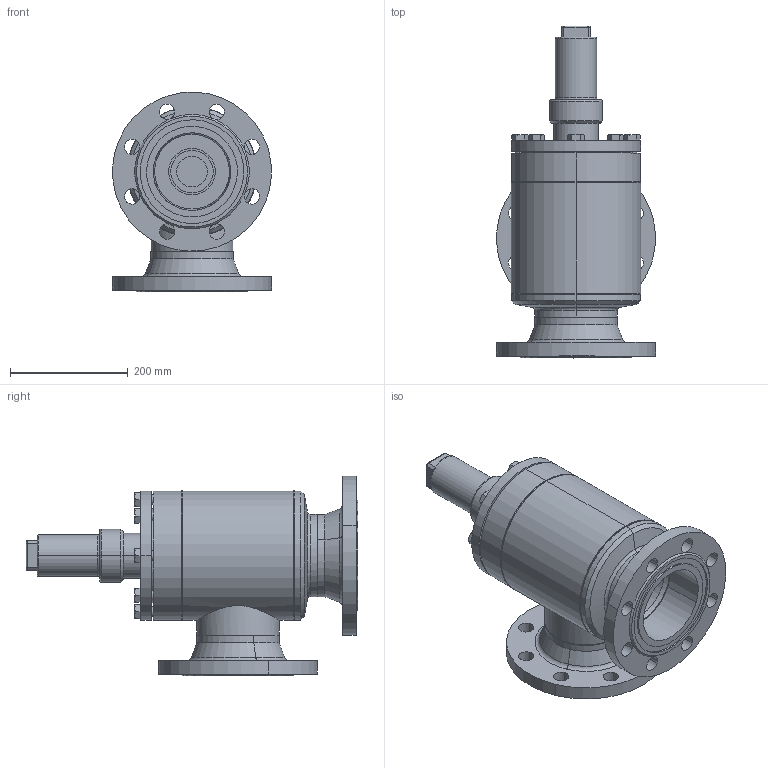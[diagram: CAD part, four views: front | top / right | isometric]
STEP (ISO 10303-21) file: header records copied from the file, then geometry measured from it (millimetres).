
FILE_DESCRIPTION (( 'STEP AP214' ), '1' );
FILE_NAME ('HRAR22420D20-DN125_DIN-FL-N_PS40.STEP', '2006-04-27T13:04:51', ( 'Herr Grams' ), ( 'AWP GmbH' ), 'SwSTEP 2.0', 'SolidWorks 2002296', '' );
FILE_SCHEMA (( 'AUTOMOTIVE_DESIGN' ));
Length unit declared in the file: millimetre
Products named in the file (15): HRAR22420D20-DN125_DIN-FL-N_PS40; Kappe16402_DN125-150_Standard; AVB16300E20_Deck+Schr-DN125_Standard; Deckel16300E20-DN125_Standard; Sechskantschraube-DIN933_M16x 45; Gehäuse-kpl16420-DN125_DIN_PS40_Standard; Kopfstück16300-DN125_Standard; Gehäuse16300-DN125_Standard; Boden16300-DN125_Standard; Rohrstutzen-A16300-DN125_R1_Standard; Flansch-DIN-Nut_PS40_DIN-Flansch-DN125_PS40-Nut; bead-DN125-2_Standard; bead-DN125-1_Standard; bead-DN125-4_Standard; bead-DN125-3_Standard
Assembly tree (22 placements, depth 3):
  HRAR22420D20-DN125_DIN-FL-N_PS40
    AVB16300E20_Deck+Schr-DN125_Standard
      Sechskantschraube-DIN933_M16x 45  x8
      Deckel16300E20-DN125_Standard
    Gehäuse-kpl16420-DN125_DIN_PS40_Standard
      Flansch-DIN-Nut_PS40_DIN-Flansch-DN125_PS40-Nut  x2
      Kopfstück16300-DN125_Standard
      bead-DN125-2_Standard
      bead-DN125-3_Standard
      Boden16300-DN125_Standard
      bead-DN125-4_Standard
      Rohrstutzen-A16300-DN125_R1_Standard
      Gehäuse16300-DN125_Standard
      bead-DN125-1_Standard
    Kappe16402_DN125-150_Standard
Bounding box: 269.74 x 563 x 338.87 mm (x, y, z)
Volume: 7369134.1 mm3; surface area: 1134540.1 mm2
Topology: 20 solids, 20 shells, 437 faces, 972 edges, 586 vertices
Faces by surface type: cylinder 145, cone 134, plane 126, torus 16, bspline 16
Entity records: 9757 total; most frequent: CARTESIAN_POINT 3755, DIRECTION 1144, ORIENTED_EDGE 1008, EDGE_CURVE 504, AXIS2_PLACEMENT_3D 499, VERTEX_POINT 312, EDGE_LOOP 284, CIRCLE 264
